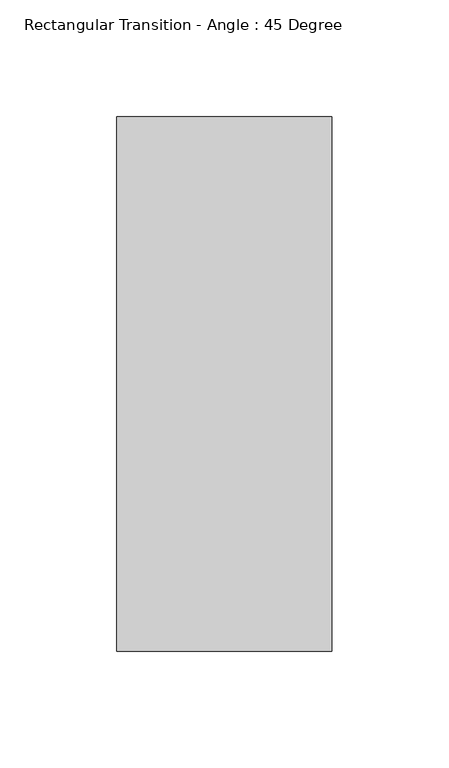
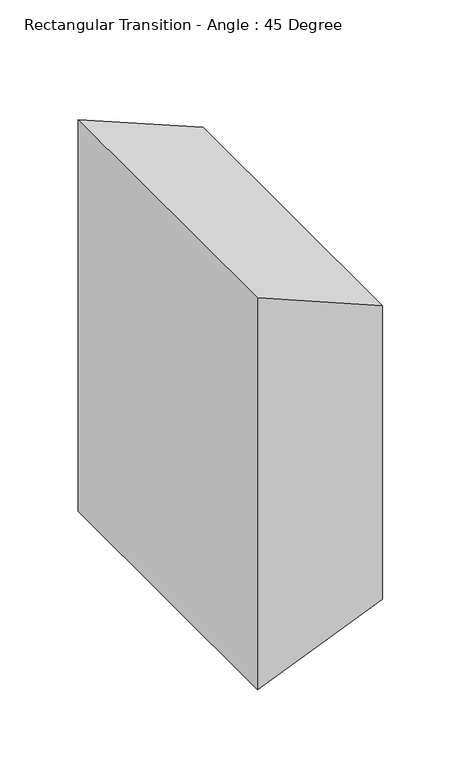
"""IFC4 building model written with IfcOpenShell, lengths in millimetres: duct fitting geometry, Rectangular Transition - Angle : 45 Degree."""

from ifc_helpers import new_model, si_unit, frame, origin, place, context, project, spatial, polyline, outline, extrude, source, transform, mapped, element, save


def rectangular_transition_angle_45_degree_cbc335ff(model_context):
    return source(origin(), model_context, "Body", "SweptSolid", [
        extrude(outline(polyline([(152.4, 0.0), (-152.4, 0.0), (-114.3, 91.9815367), (114.3, 91.9815367), (152.4, 0.0)])), frame((0.0, -114.3, 0.0), z_axis=(0.0, 1.0, 0.0), x_axis=(0.0, 0.0, 1.0)), (0.0, 0.0, 1.0), 228.6),
    ])


if __name__ == "__main__":
    model = new_model("IFC4")
    model_context = context("Model", 3, world=origin())
    ifc_project = project(units=[si_unit("LENGTHUNIT", "METRE", prefix="MILLI")], contexts=[model_context])
    site = spatial("IfcSite", under=ifc_project)
    building = spatial("IfcBuilding", under=site)
    placement = place(None, origin())
    rectangular_transition_angle_45_degree_shape = rectangular_transition_angle_45_degree_cbc335ff(model_context)
    element("IfcDuctFitting", 1, ObjectType="Rectangular Transition - Angle : 45 Degree", at=placement, inside=building, context=model_context, shape_type="MappedRepresentation", body=[
        mapped(rectangular_transition_angle_45_degree_shape, transform((0.0, 0.0, 0.0), x_axis=(1.0, 0.0, 0.0), y_axis=(0.0, 1.0, 0.0), z_axis=(0.0, 0.0, 1.0))),
    ])
    save(model, "model.ifc")
